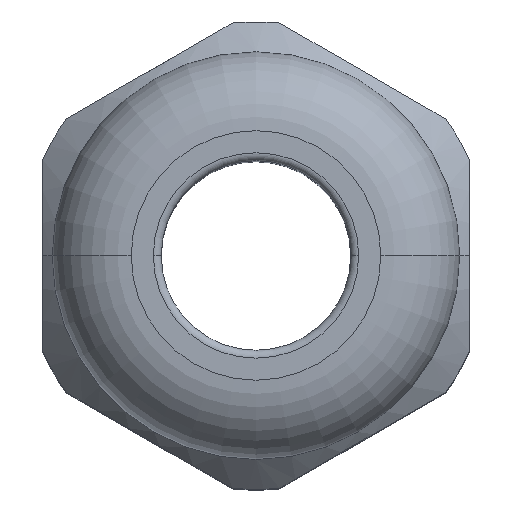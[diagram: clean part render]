
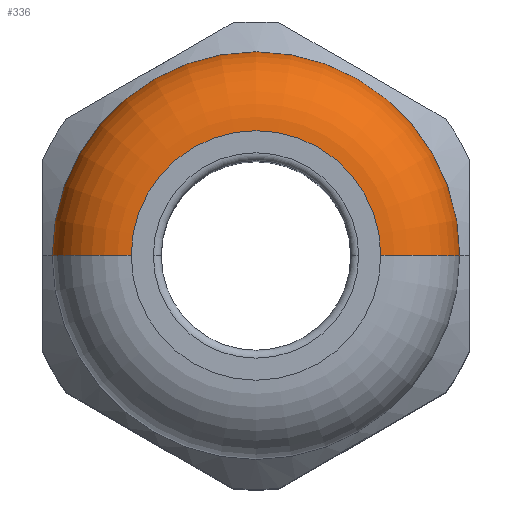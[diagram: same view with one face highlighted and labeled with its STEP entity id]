
A CAD part, top view. The second image highlights one B-rep face of the part: STEP entity #336.
In plain terms, the highlighted toroidal (fillet/blend) face has major radius 7.9 mm and minor radius 5 mm.
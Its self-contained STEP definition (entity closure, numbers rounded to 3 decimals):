
#323 = ORIENTED_EDGE ( 'NONE', *, *, #324, .F. ) ;
#324 = EDGE_CURVE ( 'NONE', #333, #326, #1501, .T. ) ;
#326 = VERTEX_POINT ( 'NONE', #1491 ) ;
#327 = EDGE_CURVE ( 'NONE', #326, #328, #1490, .T. ) ;
#328 = VERTEX_POINT ( 'NONE', #1485 ) ;
#329 = ORIENTED_EDGE ( 'NONE', *, *, #327, .F. ) ;
#330 = ORIENTED_EDGE ( 'NONE', *, *, #356, .T. ) ;
#331 = ORIENTED_EDGE ( 'NONE', *, *, #332, .T. ) ;
#332 = EDGE_CURVE ( 'NONE', #333, #334, #1484, .T. ) ;
#333 = VERTEX_POINT ( 'NONE', #1436 ) ;
#334 = VERTEX_POINT ( 'NONE', #1435 ) ;
#336 = ADVANCED_FACE ( 'NONE', ( #1434 ), #1427, .T. ) ;
#337 = EDGE_LOOP ( 'NONE', ( #331, #330, #329, #323 ) ) ;
#356 = EDGE_CURVE ( 'NONE', #334, #328, #1851, .T. ) ;
#1424 = DIRECTION ( 'NONE',  ( -1., 0., 0. ) ) ;
#1425 = DIRECTION ( 'NONE',  ( 0., 0., -1. ) ) ;
#1426 = AXIS2_PLACEMENT_3D ( 'NONE', #1428, #1425, #1424 ) ;
#1427 = TOROIDAL_SURFACE ( 'NONE', #1426, 7.9, 5. ) ;
#1428 = CARTESIAN_POINT ( 'NONE',  ( 0., 0., 37.5 ) ) ;
#1434 = FACE_OUTER_BOUND ( 'NONE', #337, .T. ) ;
#1435 = CARTESIAN_POINT ( 'NONE',  ( 7.9, 0., 42.5 ) ) ;
#1436 = CARTESIAN_POINT ( 'NONE',  ( -7.9, 0., 42.5 ) ) ;
#1480 = DIRECTION ( 'NONE',  ( -1., 0., 0. ) ) ;
#1481 = DIRECTION ( 'NONE',  ( 0., 0., -1. ) ) ;
#1482 = CARTESIAN_POINT ( 'NONE',  ( 0., 0., 42.5 ) ) ;
#1483 = AXIS2_PLACEMENT_3D ( 'NONE', #1482, #1481, #1480 ) ;
#1484 = CIRCLE ( 'NONE', #1483, 7.9 ) ;
#1485 = CARTESIAN_POINT ( 'NONE',  ( 12.9, 0., 37.5 ) ) ;
#1486 = DIRECTION ( 'NONE',  ( -1., 0., 0. ) ) ;
#1487 = DIRECTION ( 'NONE',  ( 0., 0., -1. ) ) ;
#1488 = CARTESIAN_POINT ( 'NONE',  ( 0., 0., 37.5 ) ) ;
#1489 = AXIS2_PLACEMENT_3D ( 'NONE', #1488, #1487, #1486 ) ;
#1490 = CIRCLE ( 'NONE', #1489, 12.9 ) ;
#1491 = CARTESIAN_POINT ( 'NONE',  ( -12.9, 0., 37.5 ) ) ;
#1497 = DIRECTION ( 'NONE',  ( 0., 0., -1. ) ) ;
#1498 = DIRECTION ( 'NONE',  ( 0., -1., 0. ) ) ;
#1499 = CARTESIAN_POINT ( 'NONE',  ( -7.9, 0., 37.5 ) ) ;
#1500 = AXIS2_PLACEMENT_3D ( 'NONE', #1499, #1498, #1497 ) ;
#1501 = CIRCLE ( 'NONE', #1500, 5. ) ;
#1809 = CARTESIAN_POINT ( 'NONE',  ( 7.9, 0., 37.5 ) ) ;
#1848 = DIRECTION ( 'NONE',  ( -1., 0., 0. ) ) ;
#1849 = DIRECTION ( 'NONE',  ( 0., 1., 0. ) ) ;
#1850 = AXIS2_PLACEMENT_3D ( 'NONE', #1809, #1849, #1848 ) ;
#1851 = CIRCLE ( 'NONE', #1850, 5. ) ;
